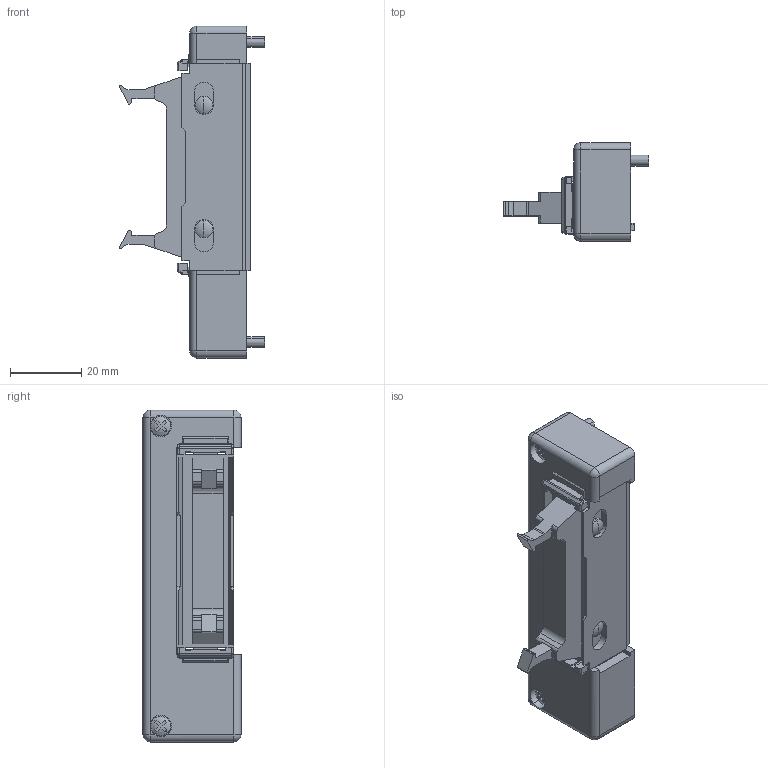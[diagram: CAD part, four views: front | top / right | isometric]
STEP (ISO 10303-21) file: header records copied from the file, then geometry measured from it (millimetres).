
FILE_DESCRIPTION( (''), '2;1');
FILE_NAME ('CVICAD32.25716.FZX-F260N-E_10779.stp','2020-09-09T09:20:46',(''),(''),'spGate 12.6.6','','');
FILE_SCHEMA (('AUTOMOTIVE_DESIGN'));
Length unit declared in the file: millimetre
Products named in the file (3): Assembly; CVICAD32-prt0; CVICAD32-prt1
Assembly tree (2 placements, depth 2):
  Assembly
    CVICAD32-prt0
    CVICAD32-prt1
Bounding box: 40.7 x 27.5 x 93 mm (x, y, z)
Volume: 36646.8 mm3; surface area: 14621.2 mm2
Topology: 2 solids, 2 shells, 327 faces, 952 edges, 610 vertices
Faces by surface type: plane 225, cylinder 77, sphere 20, bspline 5
Entity records: 18088 total; most frequent: CARTESIAN_POINT 2093, ORIENTED_EDGE 1872, DIRECTION 1764, COLOUR_RGB 1265, PRESENTATION_STYLE_ASSIGNMENT 1265, STYLED_ITEM 1265, EDGE_CURVE 936, DRAUGHTING_PRE_DEFINED_CURVE_FONT 936
